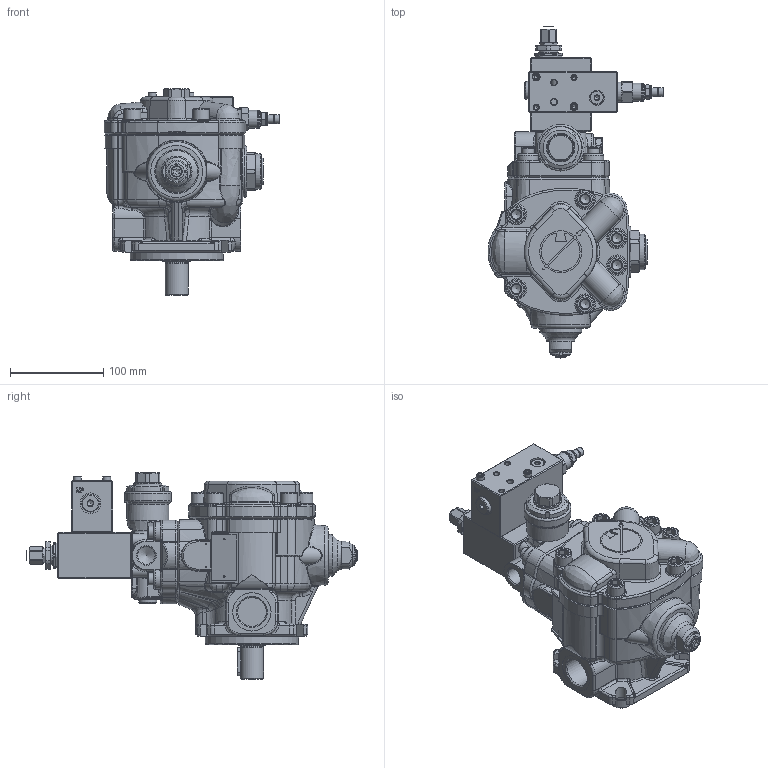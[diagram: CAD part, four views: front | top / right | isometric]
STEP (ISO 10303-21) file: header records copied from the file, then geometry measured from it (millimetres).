
FILE_DESCRIPTION(/* description */ (''),/* implementation_level */ '2;1');
FILE_NAME(/* name */ 'C:\Users\marcop\Desktop\01 PHPK 1 FHRM PCS003.stp',/* time_stamp */ '2019-11-21T11:41:40+01:00',/* author */ ('marcop'),/* organization */ (''),/* preprocessor_version */ 'ST-DEVELOPER v17',/* originating_system */ 'Autodesk Inventor 2018',/* authorisation */ '');
FILE_SCHEMA (('AUTOMOTIVE_DESIGN { 1 0 10303 214 3 1 1 }'));
Products named in the file (1): PLP-PHP 1_Shrinkwrap_1
Bounding box: 188.5 x 355.7 x 221 mm (x, y, z)
Volume: 2850093.4 mm3; surface area: 319005.1 mm2
Topology: 2 solids, 2 shells, 2407 faces, 6232 edges, 3905 vertices
Faces by surface type: plane 932, cylinder 599, bspline 363, cone 254, torus 236, sphere 23
Full cylindrical faces by diameter (mm): 0.9 x3, 1.7 x4, 2.5 x3, 4 x1, 4.134 x2, 5.5 x2, 6 x2, 6.5 x3, 7.2 x1, 7.671 x2, 8 x1, 8.5 x6, 8.566 x2, 9.347 x2, 9.5 x5, 10 x1, 11.445 x1, 12 x4, 13 x4, 13.487 x1, 13.5 x1, 13.767 x2, 14 x3, 14.224 x1, 14.63 x1, 15 x1, 15.5 x1, 16 x2, 17.374 x1, 17.399 x2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
Entity records: 88090 total; most frequent: CARTESIAN_POINT 29555, ORIENTED_EDGE 12362, DIRECTION 11098, EDGE_CURVE 6181, AXIS2_PLACEMENT_3D 4326, VERTEX_POINT 3905, EDGE_LOOP 2555, LINE 2446
